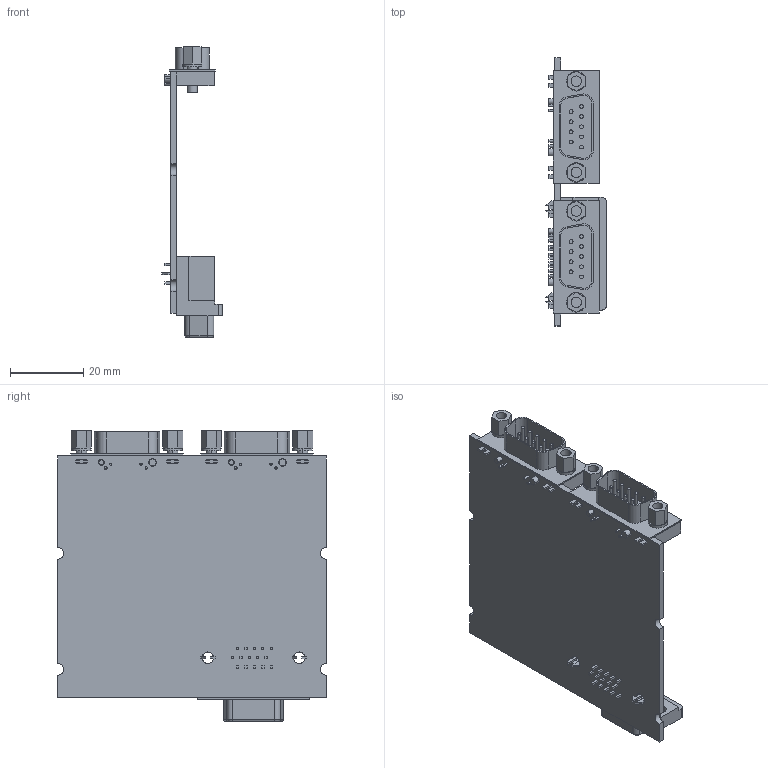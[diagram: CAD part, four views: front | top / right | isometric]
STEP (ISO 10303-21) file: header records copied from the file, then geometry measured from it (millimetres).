
FILE_DESCRIPTION((''),'2;1');
FILE_NAME('CU_CCA_SBRIO_2X-DB9','2010-08-06T',('talbott'),(''),'PRO/ENGINEER BY PARAMETRIC TECHNOLOGY CORPORATION, 2006510','PRO/ENGINEER BY PARAMETRIC TECHNOLOGY CORPORATION, 2006510','');
FILE_SCHEMA(('CONFIG_CONTROL_DESIGN'));
Length unit declared in the file: inch
Products named in the file (1): CU_CCA_SBRIO_2X-DB9
Bounding box: 16.61 x 73.38 x 79.63 mm (x, y, z)
Volume: 15949.9 mm3; surface area: 16553.3 mm2
Topology: 5 solids, 5 shells, 654 faces, 1510 edges, 976 vertices
Faces by surface type: plane 390, cylinder 230, cone 30, torus 4
Entity records: 18596 total; most frequent: DIRECTION 3340, CARTESIAN_POINT 3184, ORIENTED_EDGE 3020, EDGE_CURVE 1510, AXIS2_PLACEMENT_3D 1192, VERTEX_POINT 976, VECTOR 956, LINE 956
